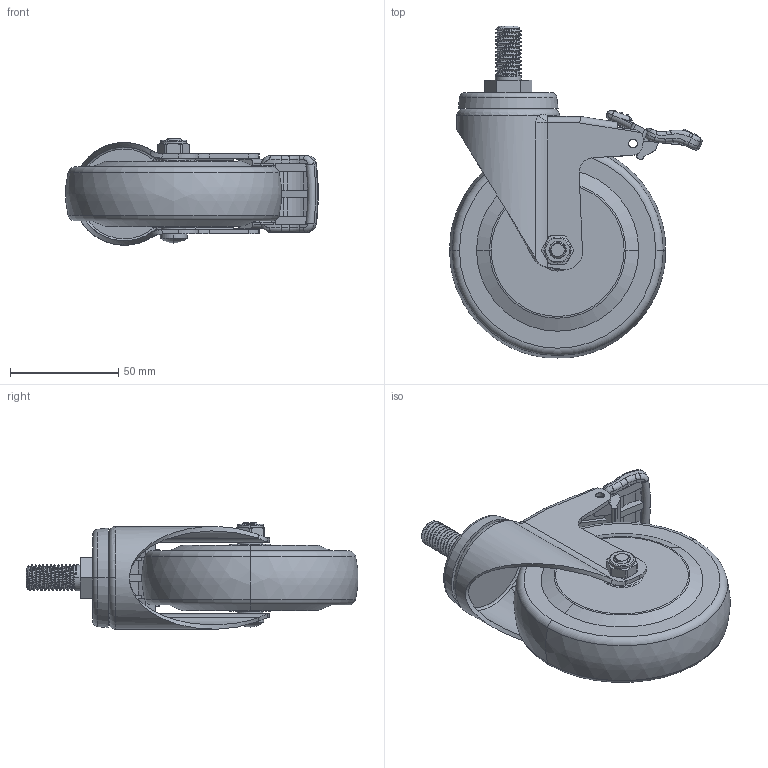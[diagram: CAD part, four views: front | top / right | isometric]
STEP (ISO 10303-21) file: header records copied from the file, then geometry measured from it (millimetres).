
FILE_DESCRIPTION((''),'2;1');
FILE_NAME('361125-3625-64_ASM','2020-01-03T',('L'),(''),'PRO/ENGINEER BY PARAMETRIC TECHNOLOGY CORPORATION, 2010280','PRO/ENGINEER BY PARAMETRIC TECHNOLOGY CORPORATION, 2010280','');
FILE_SCHEMA(('CONFIG_CONTROL_DESIGN'));
Length unit declared in the file: millimetre
Products named in the file (6): 36144H; 364-964; 350-33A; 300-34; 3601-64; 361125-3625-64_ASM
Assembly tree (5 placements, depth 2):
  361125-3625-64_ASM
    36144H
    364-964
    350-33A
    300-34
    3601-64
Bounding box: 116.72 x 153.46 x 49.23 mm (x, y, z)
Volume: 254592.4 mm3; surface area: 54729 mm2
Topology: 5 solids, 5 shells, 481 faces, 1224 edges, 766 vertices
Faces by surface type: cylinder 171, plane 147, bspline 81, torus 36, cone 32, sphere 14
Entity records: 24245 total; most frequent: CARTESIAN_POINT 13203, ORIENTED_EDGE 2444, DIRECTION 2033, EDGE_CURVE 1222, VERTEX_POINT 766, AXIS2_PLACEMENT_3D 761, EDGE_LOOP 512, VECTOR 511
